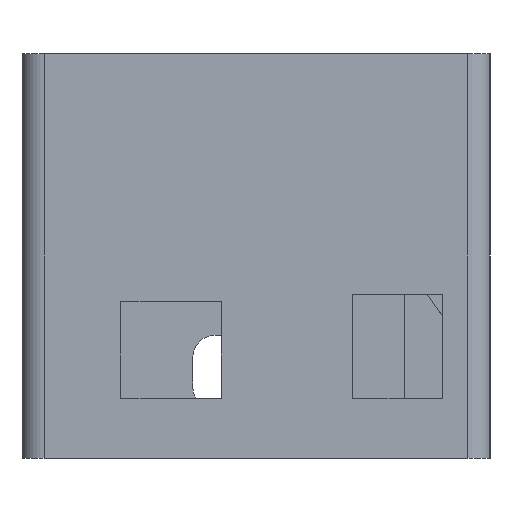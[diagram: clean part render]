
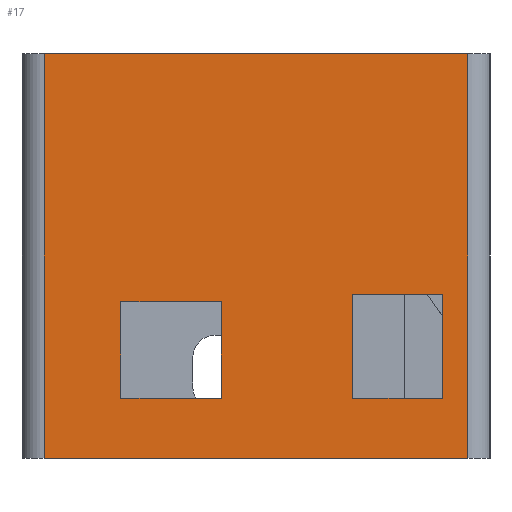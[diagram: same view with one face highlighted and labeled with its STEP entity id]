
A CAD part, left-side view. The second image highlights one B-rep face of the part: STEP entity #17.
In plain terms, the highlighted planar face has unit normal (-1, 0, 0).
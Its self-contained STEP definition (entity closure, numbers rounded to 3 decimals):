
#17 = ADVANCED_FACE('',(#18,#52,#86),#120,.F.);
#18 = FACE_BOUND('',#19,.F.);
#19 = EDGE_LOOP('',(#20,#30,#38,#46));
#20 = ORIENTED_EDGE('',*,*,#21,.F.);
#21 = EDGE_CURVE('',#22,#24,#26,.T.);
#22 = VERTEX_POINT('',#23);
#23 = CARTESIAN_POINT('',(-2.5,0.5,52.));
#24 = VERTEX_POINT('',#25);
#25 = CARTESIAN_POINT('',(-2.5,57.5,52.));
#26 = LINE('',#27,#28);
#27 = CARTESIAN_POINT('',(-2.5,-2.5,52.));
#28 = VECTOR('',#29,1.);
#29 = DIRECTION('',(-0.,1.,0.));
#30 = ORIENTED_EDGE('',*,*,#31,.F.);
#31 = EDGE_CURVE('',#32,#22,#34,.T.);
#32 = VERTEX_POINT('',#33);
#33 = CARTESIAN_POINT('',(-2.5,0.5,-2.5));
#34 = LINE('',#35,#36);
#35 = CARTESIAN_POINT('',(-2.5,0.5,-2.5));
#36 = VECTOR('',#37,1.);
#37 = DIRECTION('',(0.,0.,1.));
#38 = ORIENTED_EDGE('',*,*,#39,.T.);
#39 = EDGE_CURVE('',#32,#40,#42,.T.);
#40 = VERTEX_POINT('',#41);
#41 = CARTESIAN_POINT('',(-2.5,57.5,-2.5));
#42 = LINE('',#43,#44);
#43 = CARTESIAN_POINT('',(-2.5,-2.5,-2.5));
#44 = VECTOR('',#45,1.);
#45 = DIRECTION('',(-0.,1.,0.));
#46 = ORIENTED_EDGE('',*,*,#47,.T.);
#47 = EDGE_CURVE('',#40,#24,#48,.T.);
#48 = LINE('',#49,#50);
#49 = CARTESIAN_POINT('',(-2.5,57.5,-2.5));
#50 = VECTOR('',#51,1.);
#51 = DIRECTION('',(0.,0.,1.));
#52 = FACE_BOUND('',#53,.F.);
#53 = EDGE_LOOP('',(#54,#64,#72,#80));
#54 = ORIENTED_EDGE('',*,*,#55,.T.);
#55 = EDGE_CURVE('',#56,#58,#60,.T.);
#56 = VERTEX_POINT('',#57);
#57 = CARTESIAN_POINT('',(-2.5,47.18,5.6));
#58 = VERTEX_POINT('',#59);
#59 = CARTESIAN_POINT('',(-2.5,33.68,5.6));
#60 = LINE('',#61,#62);
#61 = CARTESIAN_POINT('',(-2.5,15.59,5.6));
#62 = VECTOR('',#63,1.);
#63 = DIRECTION('',(0.,-1.,0.));
#64 = ORIENTED_EDGE('',*,*,#65,.T.);
#65 = EDGE_CURVE('',#58,#66,#68,.T.);
#66 = VERTEX_POINT('',#67);
#67 = CARTESIAN_POINT('',(-2.5,33.68,18.6));
#68 = LINE('',#69,#70);
#69 = CARTESIAN_POINT('',(-2.5,33.68,1.55));
#70 = VECTOR('',#71,1.);
#71 = DIRECTION('',(0.,0.,1.));
#72 = ORIENTED_EDGE('',*,*,#73,.F.);
#73 = EDGE_CURVE('',#74,#66,#76,.T.);
#74 = VERTEX_POINT('',#75);
#75 = CARTESIAN_POINT('',(-2.5,47.18,18.6));
#76 = LINE('',#77,#78);
#77 = CARTESIAN_POINT('',(-2.5,15.59,18.6));
#78 = VECTOR('',#79,1.);
#79 = DIRECTION('',(0.,-1.,0.));
#80 = ORIENTED_EDGE('',*,*,#81,.F.);
#81 = EDGE_CURVE('',#56,#74,#82,.T.);
#82 = LINE('',#83,#84);
#83 = CARTESIAN_POINT('',(-2.5,47.18,1.55));
#84 = VECTOR('',#85,1.);
#85 = DIRECTION('',(0.,0.,1.));
#86 = FACE_BOUND('',#87,.F.);
#87 = EDGE_LOOP('',(#88,#98,#106,#114));
#88 = ORIENTED_EDGE('',*,*,#89,.T.);
#89 = EDGE_CURVE('',#90,#92,#94,.T.);
#90 = VERTEX_POINT('',#91);
#91 = CARTESIAN_POINT('',(-2.5,15.95,5.6));
#92 = VERTEX_POINT('',#93);
#93 = CARTESIAN_POINT('',(-2.5,3.95,5.6));
#94 = LINE('',#95,#96);
#95 = CARTESIAN_POINT('',(-2.5,0.725,5.6));
#96 = VECTOR('',#97,1.);
#97 = DIRECTION('',(0.,-1.,0.));
#98 = ORIENTED_EDGE('',*,*,#99,.T.);
#99 = EDGE_CURVE('',#92,#100,#102,.T.);
#100 = VERTEX_POINT('',#101);
#101 = CARTESIAN_POINT('',(-2.5,3.95,19.6));
#102 = LINE('',#103,#104);
#103 = CARTESIAN_POINT('',(-2.5,3.95,1.55));
#104 = VECTOR('',#105,1.);
#105 = DIRECTION('',(0.,0.,1.));
#106 = ORIENTED_EDGE('',*,*,#107,.F.);
#107 = EDGE_CURVE('',#108,#100,#110,.T.);
#108 = VERTEX_POINT('',#109);
#109 = CARTESIAN_POINT('',(-2.5,15.95,19.6));
#110 = LINE('',#111,#112);
#111 = CARTESIAN_POINT('',(-2.5,0.725,19.6));
#112 = VECTOR('',#113,1.);
#113 = DIRECTION('',(0.,-1.,0.));
#114 = ORIENTED_EDGE('',*,*,#115,.F.);
#115 = EDGE_CURVE('',#90,#108,#116,.T.);
#116 = LINE('',#117,#118);
#117 = CARTESIAN_POINT('',(-2.5,15.95,1.55));
#118 = VECTOR('',#119,1.);
#119 = DIRECTION('',(0.,0.,1.));
#120 = PLANE('',#121);
#121 = AXIS2_PLACEMENT_3D('',#122,#123,#124);
#122 = CARTESIAN_POINT('',(-2.5,-2.5,-2.5));
#123 = DIRECTION('',(1.,0.,-0.));
#124 = DIRECTION('',(0.,0.,1.));
